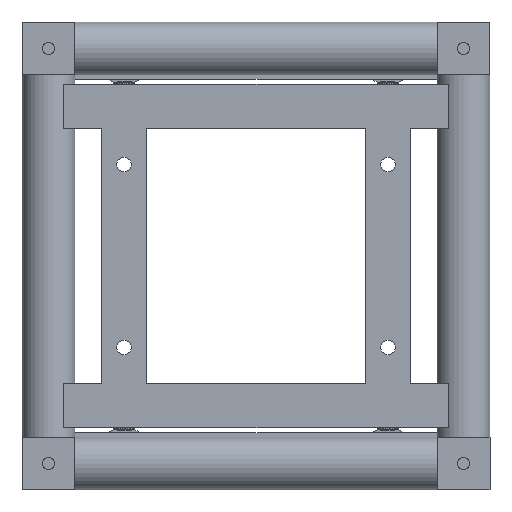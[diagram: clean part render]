
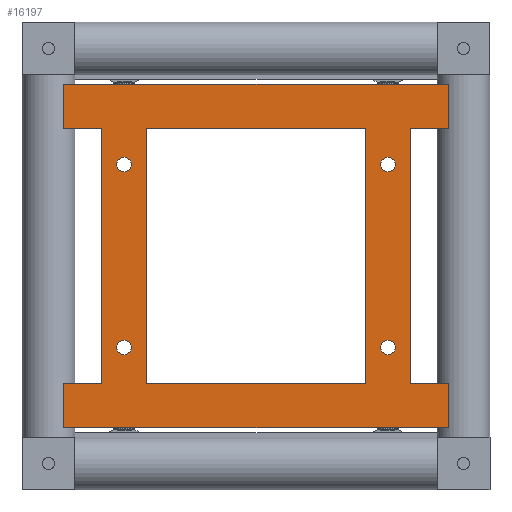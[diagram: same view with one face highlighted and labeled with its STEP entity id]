
A CAD part, left-side view. The second image highlights one B-rep face of the part: STEP entity #16197.
In plain terms, the highlighted planar face has unit normal (-1, 0, 0).
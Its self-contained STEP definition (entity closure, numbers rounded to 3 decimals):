
#575=LINE('',#26760,#1255);
#586=LINE('',#26781,#1266);
#588=LINE('',#26785,#1268);
#594=LINE('',#26795,#1274);
#602=LINE('',#26810,#1282);
#610=LINE('',#26840,#1290);
#616=LINE('',#26853,#1296);
#621=LINE('',#26878,#1301);
#625=LINE('',#26886,#1305);
#643=LINE('',#26919,#1323);
#648=LINE('',#26950,#1328);
#653=LINE('',#26960,#1333);
#673=LINE('',#26996,#1353);
#674=LINE('',#26997,#1354);
#676=LINE('',#27000,#1356);
#677=LINE('',#27002,#1357);
#1255=VECTOR('',#22262,289.);
#1266=VECTOR('',#22281,289.);
#1268=VECTOR('',#22285,43.5);
#1274=VECTOR('',#22291,43.5);
#1282=VECTOR('',#22299,249.);
#1290=VECTOR('',#22329,289.);
#1296=VECTOR('',#22343,289.);
#1301=VECTOR('',#22370,50.);
#1305=VECTOR('',#22378,436.);
#1323=VECTOR('',#22412,50.);
#1328=VECTOR('',#22445,50.);
#1333=VECTOR('',#22454,436.);
#1353=VECTOR('',#22490,249.);
#1354=VECTOR('',#22491,43.5);
#1356=VECTOR('',#22493,43.5);
#1357=VECTOR('',#22496,50.);
#2074=PLANE('',#18163);
#2858=FACE_BOUND('',#5673,.T.);
#2859=FACE_BOUND('',#5674,.T.);
#2860=FACE_BOUND('',#5675,.T.);
#2861=FACE_BOUND('',#5676,.T.);
#2862=FACE_BOUND('',#5677,.T.);
#3936=FACE_OUTER_BOUND('',#5672,.T.);
#5672=EDGE_LOOP('',(#13066,#13067,#13068,#13069,#13070,#13071,#13072,#13073,
#13074,#13075,#13076,#13077));
#5673=EDGE_LOOP('',(#13078,#13079,#13080,#13081));
#5674=EDGE_LOOP('',(#13082));
#5675=EDGE_LOOP('',(#13083));
#5676=EDGE_LOOP('',(#13084));
#5677=EDGE_LOOP('',(#13085));
#6951=CIRCLE('',#18091,8.25);
#6953=CIRCLE('',#18094,8.25);
#6957=CIRCLE('',#18107,8.25);
#6959=CIRCLE('',#18110,8.25);
#8223=VERTEX_POINT('',#26731);
#8225=VERTEX_POINT('',#26736);
#8234=VERTEX_POINT('',#26757);
#8235=VERTEX_POINT('',#26759);
#8240=VERTEX_POINT('',#26778);
#8241=VERTEX_POINT('',#26780);
#8242=VERTEX_POINT('',#26784);
#8245=VERTEX_POINT('',#26792);
#8246=VERTEX_POINT('',#26794);
#8253=VERTEX_POINT('',#26808);
#8257=VERTEX_POINT('',#26818);
#8259=VERTEX_POINT('',#26823);
#8264=VERTEX_POINT('',#26838);
#8267=VERTEX_POINT('',#26852);
#8276=VERTEX_POINT('',#26877);
#8278=VERTEX_POINT('',#26885);
#8296=VERTEX_POINT('',#26947);
#8297=VERTEX_POINT('',#26949);
#8300=VERTEX_POINT('',#26959);
#8309=VERTEX_POINT('',#26998);
#9879=EDGE_CURVE('',#8223,#8223,#6951,.T.);
#9881=EDGE_CURVE('',#8225,#8225,#6953,.T.);
#9891=EDGE_CURVE('',#8234,#8235,#575,.T.);
#9902=EDGE_CURVE('',#8241,#8240,#586,.T.);
#9904=EDGE_CURVE('',#8242,#8235,#588,.T.);
#9910=EDGE_CURVE('',#8246,#8245,#594,.T.);
#9918=EDGE_CURVE('',#8240,#8253,#602,.T.);
#9922=EDGE_CURVE('',#8257,#8257,#6957,.T.);
#9924=EDGE_CURVE('',#8259,#8259,#6959,.T.);
#9932=EDGE_CURVE('',#8264,#8253,#610,.T.);
#9938=EDGE_CURVE('',#8267,#8246,#616,.T.);
#9949=EDGE_CURVE('',#8242,#8276,#621,.T.);
#9953=EDGE_CURVE('',#8276,#8278,#625,.T.);
#9971=EDGE_CURVE('',#8245,#8278,#643,.T.);
#9984=EDGE_CURVE('',#8296,#8297,#648,.T.);
#9989=EDGE_CURVE('',#8297,#8300,#653,.T.);
#10009=EDGE_CURVE('',#8264,#8241,#673,.T.);
#10010=EDGE_CURVE('',#8296,#8267,#674,.T.);
#10012=EDGE_CURVE('',#8234,#8309,#676,.T.);
#10013=EDGE_CURVE('',#8309,#8300,#677,.T.);
#13066=ORIENTED_EDGE('',*,*,#9891,.F.);
#13067=ORIENTED_EDGE('',*,*,#10012,.T.);
#13068=ORIENTED_EDGE('',*,*,#10013,.T.);
#13069=ORIENTED_EDGE('',*,*,#9989,.F.);
#13070=ORIENTED_EDGE('',*,*,#9984,.F.);
#13071=ORIENTED_EDGE('',*,*,#10010,.T.);
#13072=ORIENTED_EDGE('',*,*,#9938,.T.);
#13073=ORIENTED_EDGE('',*,*,#9910,.T.);
#13074=ORIENTED_EDGE('',*,*,#9971,.T.);
#13075=ORIENTED_EDGE('',*,*,#9953,.F.);
#13076=ORIENTED_EDGE('',*,*,#9949,.F.);
#13077=ORIENTED_EDGE('',*,*,#9904,.T.);
#13078=ORIENTED_EDGE('',*,*,#9918,.T.);
#13079=ORIENTED_EDGE('',*,*,#9932,.F.);
#13080=ORIENTED_EDGE('',*,*,#10009,.T.);
#13081=ORIENTED_EDGE('',*,*,#9902,.T.);
#13082=ORIENTED_EDGE('',*,*,#9881,.T.);
#13083=ORIENTED_EDGE('',*,*,#9879,.T.);
#13084=ORIENTED_EDGE('',*,*,#9922,.T.);
#13085=ORIENTED_EDGE('',*,*,#9924,.T.);
#16197=ADVANCED_FACE('',(#3936,#2858,#2859,#2860,#2861,#2862),#2074,.T.);
#18091=AXIS2_PLACEMENT_3D('',#26732,#22239,#22240);
#18094=AXIS2_PLACEMENT_3D('',#26737,#22245,#22246);
#18107=AXIS2_PLACEMENT_3D('',#26819,#22308,#22309);
#18110=AXIS2_PLACEMENT_3D('',#26824,#22314,#22315);
#18163=AXIS2_PLACEMENT_3D('',#27001,#22494,#22495);
#22239=DIRECTION('center_axis',(1.,0.,0.));
#22240=DIRECTION('ref_axis',(0.,1.,0.));
#22245=DIRECTION('center_axis',(1.,0.,0.));
#22246=DIRECTION('ref_axis',(0.,1.,0.));
#22262=DIRECTION('',(0.,0.,1.));
#22281=DIRECTION('',(0.,0.,1.));
#22285=DIRECTION('',(0.,-1.,0.));
#22291=DIRECTION('',(0.,-1.,0.));
#22299=DIRECTION('',(0.,-1.,0.));
#22308=DIRECTION('center_axis',(1.,0.,0.));
#22309=DIRECTION('ref_axis',(0.,1.,0.));
#22314=DIRECTION('center_axis',(1.,0.,0.));
#22315=DIRECTION('ref_axis',(0.,1.,0.));
#22329=DIRECTION('',(0.,0.,1.));
#22343=DIRECTION('',(0.,0.,1.));
#22370=DIRECTION('',(0.,0.,1.));
#22378=DIRECTION('',(0.,-1.,0.));
#22412=DIRECTION('',(0.,0.,1.));
#22445=DIRECTION('',(0.,0.,-1.));
#22454=DIRECTION('',(0.,1.,0.));
#22490=DIRECTION('',(0.,1.,0.));
#22491=DIRECTION('',(0.,1.,0.));
#22493=DIRECTION('',(0.,1.,0.));
#22494=DIRECTION('center_axis',(-1.,0.,0.));
#22495=DIRECTION('ref_axis',(0.,1.,0.));
#22496=DIRECTION('',(0.,0.,-1.));
#26731=CARTESIAN_POINT('',(-30.,-77.25,-131.5));
#26732=CARTESIAN_POINT('Origin',(-30.,-85.5,-131.5));
#26736=CARTESIAN_POINT('',(-30.,-77.25,-338.5));
#26737=CARTESIAN_POINT('Origin',(-30.,-85.5,-338.5));
#26757=CARTESIAN_POINT('',(-30.,-60.5,-379.5));
#26759=CARTESIAN_POINT('',(-30.,-60.5,-90.5));
#26760=CARTESIAN_POINT('',(-30.,-60.5,-379.5));
#26778=CARTESIAN_POINT('',(-30.,-110.5,-90.5));
#26780=CARTESIAN_POINT('',(-30.,-110.5,-379.5));
#26781=CARTESIAN_POINT('',(-30.,-110.5,-379.5));
#26784=CARTESIAN_POINT('',(-30.,-17.,-90.5));
#26785=CARTESIAN_POINT('',(-30.,-17.,-90.5));
#26792=CARTESIAN_POINT('',(-30.,-453.,-90.5));
#26794=CARTESIAN_POINT('',(-30.,-409.5,-90.5));
#26795=CARTESIAN_POINT('',(-30.,-17.,-90.5));
#26808=CARTESIAN_POINT('',(-30.,-359.5,-90.5));
#26810=CARTESIAN_POINT('',(-30.,-17.,-90.5));
#26818=CARTESIAN_POINT('',(-30.,-376.25,-131.5));
#26819=CARTESIAN_POINT('Origin',(-30.,-384.5,-131.5));
#26823=CARTESIAN_POINT('',(-30.,-376.25,-338.5));
#26824=CARTESIAN_POINT('Origin',(-30.,-384.5,-338.5));
#26838=CARTESIAN_POINT('',(-30.,-359.5,-379.5));
#26840=CARTESIAN_POINT('',(-30.,-359.5,-379.5));
#26852=CARTESIAN_POINT('',(-30.,-409.5,-379.5));
#26853=CARTESIAN_POINT('',(-30.,-409.5,-379.5));
#26877=CARTESIAN_POINT('',(-30.,-17.,-40.5));
#26878=CARTESIAN_POINT('',(-30.,-17.,-90.5));
#26885=CARTESIAN_POINT('',(-30.,-453.,-40.5));
#26886=CARTESIAN_POINT('',(-30.,-17.,-40.5));
#26919=CARTESIAN_POINT('',(-30.,-453.,-90.5));
#26947=CARTESIAN_POINT('',(-30.,-453.,-379.5));
#26949=CARTESIAN_POINT('',(-30.,-453.,-429.5));
#26950=CARTESIAN_POINT('',(-30.,-453.,-379.5));
#26959=CARTESIAN_POINT('',(-30.,-17.,-429.5));
#26960=CARTESIAN_POINT('',(-30.,-453.,-429.5));
#26996=CARTESIAN_POINT('',(-30.,-453.,-379.5));
#26997=CARTESIAN_POINT('',(-30.,-453.,-379.5));
#26998=CARTESIAN_POINT('',(-30.,-17.,-379.5));
#27000=CARTESIAN_POINT('',(-30.,-453.,-379.5));
#27001=CARTESIAN_POINT('Origin',(-30.,-453.,-379.5));
#27002=CARTESIAN_POINT('',(-30.,-17.,-379.5));
